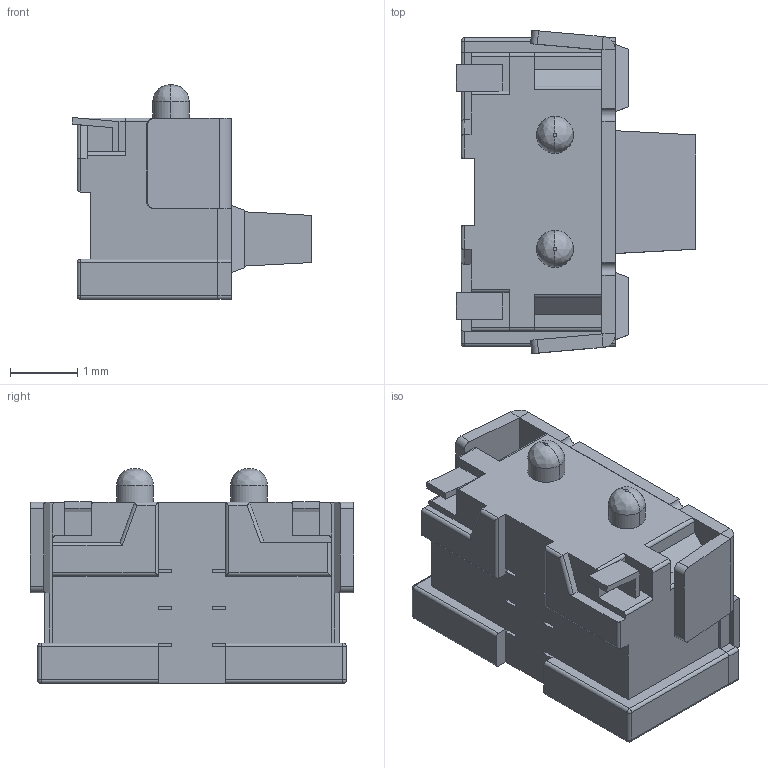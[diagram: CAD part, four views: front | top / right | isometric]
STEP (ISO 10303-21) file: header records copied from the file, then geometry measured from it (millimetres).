
FILE_DESCRIPTION((''),'2;1');
FILE_NAME('JQD2746-B0351-ADG-1-105_ASM','2026-04-10T11:26:50',('Admin'),(''),'CREO PARAMETRIC BY PTC INC, 2019224','CREO PARAMETRIC BY PTC INC, 2019224','');
FILE_SCHEMA(('AUTOMOTIVE_DESIGN { 1 0 10303 214 1 1 1 1 }'));
Length unit declared in the file: millimetre
Products named in the file (3): JQD2746-B0351-ADG-1-105_01; JQD2746-B0351-ADG-1-105_02; JQD2746-B0351-ADG-1-105_ASM
Assembly tree (2 placements, depth 2):
  JQD2746-B0351-ADG-1-105_ASM
    JQD2746-B0351-ADG-1-105_01
    JQD2746-B0351-ADG-1-105_02
Bounding box: 3.57 x 4.82 x 3.2 mm (x, y, z)
Volume: 27.1 mm3; surface area: 102 mm2
Topology: 2 solids, 2 shells, 204 faces, 530 edges, 342 vertices
Faces by surface type: plane 147, cylinder 47, sphere 6, bspline 4
Entity records: 7719 total; most frequent: CARTESIAN_POINT 1259, ORIENTED_EDGE 1048, DIRECTION 1030, EDGE_CURVE 524, VECTOR 430, LINE 430, PRESENTATION_STYLE_ASSIGNMENT 401, STYLED_ITEM 396
